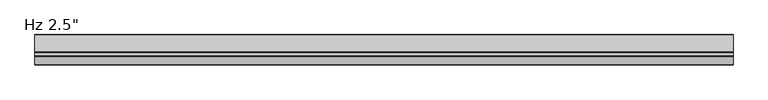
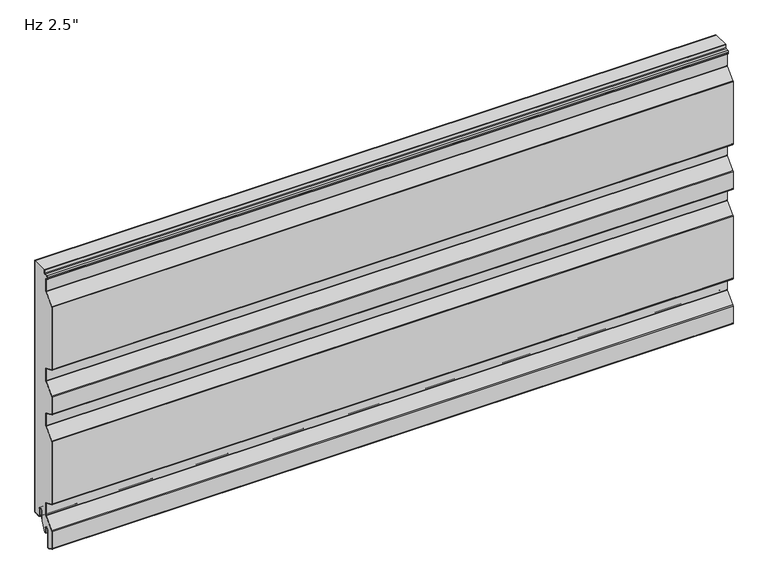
"""IFC4 building model written with IfcOpenShell, lengths in millimetres: plate geometry."""

from ifc_helpers import new_model, si_unit, point, frame, frame_2d, origin, place, context, project, spatial, polyline, circle_curve, trimmed, segment, composite_curve, outline, extrude, source, transform, mapped, element, save


def plate_768e84e4(model_context):
    return source(origin(), model_context, "Body", "SweptSolid", [
        extrude(outline(composite_curve([segment(polyline([(-26.4011912, 19.05), (-26.4011912, -3.1976612), (-36.533822, -23.01875), (-38.6886912, -23.01875), (-38.6886912, -11.90625)]), True, "CONTINUOUS"), segment(trimmed(circle_curve(frame_2d((-43.6574412, -11.90625)), 4.96875), [point((-38.6886912, -11.90625))], [point((-48.6261912, -11.90625))], True, "CARTESIAN"), True, "CONTINUOUS"), segment(polyline([(-48.6261912, -11.90625), (-48.6261912, -48.8194049)]), True, "CONTINUOUS"), segment(trimmed(circle_curve(frame_2d((-50.0074412, -48.8194049)), 1.38125), [point((-48.6261912, -48.8194049))], [point((-50.5666208, -50.0824052))], False, "CARTESIAN"), True, "CONTINUOUS"), segment(polyline([(-50.5666208, -50.0824052), (-61.6779296, -45.1629946)]), True, "CONTINUOUS"), segment(trimmed(circle_curve(frame_2d((-61.11875, -43.8999943)), 1.38125), [point((-61.6779296, -45.1629946))], [point((-62.5, -43.8999943))], False, "CARTESIAN"), True, "CONTINUOUS"), segment(polyline([(-62.5, -43.8999943), (-62.5, -5.0536946)]), True, "CONTINUOUS"), segment(trimmed(circle_curve(frame_2d((-60.4012, -5.0536946)), 2.0988), [point((-62.5, -5.0536946))], [point((-61.9092077, -3.5939431))], False, "CARTESIAN"), True, "CONTINUOUS"), segment(polyline([(-61.9092077, -3.5939431), (-41.7145567, 17.2682996)]), True, "CONTINUOUS"), segment(trimmed(circle_curve(frame_2d((-43.5737, 19.0679503)), 2.5875), [point((-41.7145567, 17.2682996))], [point((-40.9862, 19.0679503))], True, "CARTESIAN"), True, "CONTINUOUS"), segment(polyline([(-40.9862, 19.0679503), (-40.9862, 45.5917981)]), True, "CONTINUOUS"), segment(trimmed(circle_curve(frame_2d((-43.5737, 45.5917981)), 2.5875), [point((-40.9862, 45.5917981))], [point((-42.5261871, 47.9577806))], True, "CARTESIAN"), True, "CONTINUOUS"), segment(polyline([(-42.5261871, 47.9577806), (-61.6779296, 56.4370054)]), True, "CONTINUOUS"), segment(trimmed(circle_curve(frame_2d((-61.11875, 57.7000057)), 1.38125), [point((-61.6779296, 56.4370054))], [point((-62.5, 57.7000057))], False, "CARTESIAN"), True, "CONTINUOUS"), segment(polyline([(-62.5, 57.7000057), (-62.5, 198.4367131)]), True, "CONTINUOUS"), segment(trimmed(circle_curve(frame_2d((-61.11875, 198.4367131)), 1.38125), [point((-62.5, 198.4367131))], [point((-62.1111912, 199.3973962))], False, "CARTESIAN"), True, "CONTINUOUS"), segment(polyline([(-62.1111912, 199.3973962), (-41.7145567, 220.4682996)]), True, "CONTINUOUS"), segment(trimmed(circle_curve(frame_2d((-43.5737, 222.2679503)), 2.5875), [point((-41.7145567, 220.4682996))], [point((-40.9862, 222.2679503))], True, "CARTESIAN"), True, "CONTINUOUS"), segment(polyline([(-40.9862, 222.2679503), (-40.9862, 248.7917981)]), True, "CONTINUOUS"), segment(trimmed(circle_curve(frame_2d((-43.5737, 248.7917981)), 2.5875), [point((-40.9862, 248.7917981))], [point((-42.5261871, 251.1577806))], True, "CARTESIAN"), True, "CONTINUOUS"), segment(polyline([(-42.5261871, 251.1577806), (-61.6779296, 259.6370054)]), True, "CONTINUOUS"), segment(trimmed(circle_curve(frame_2d((-61.11875, 260.9000057)), 1.38125), [point((-61.6779296, 259.6370054))], [point((-62.5, 260.9000057))], False, "CARTESIAN"), True, "CONTINUOUS"), segment(polyline([(-62.5, 260.9000057), (-62.5, 300.0367131)]), True, "CONTINUOUS"), segment(trimmed(circle_curve(frame_2d((-61.11875, 300.0367131)), 1.38125), [point((-62.5, 300.0367131))], [point((-62.1111912, 300.9973962))], False, "CARTESIAN"), True, "CONTINUOUS"), segment(polyline([(-62.1111912, 300.9973962), (-41.7145567, 322.0682996)]), True, "CONTINUOUS"), segment(trimmed(circle_curve(frame_2d((-43.5737, 323.8679503)), 2.5875), [point((-41.7145567, 322.0682996))], [point((-40.9862, 323.8679503))], True, "CARTESIAN"), True, "CONTINUOUS"), segment(polyline([(-40.9862, 323.8679503), (-40.9862, 350.3917981)]), True, "CONTINUOUS"), segment(trimmed(circle_curve(frame_2d((-43.5737, 350.3917981)), 2.5875), [point((-40.9862, 350.3917981))], [point((-42.5261871, 352.7577806))], True, "CARTESIAN"), True, "CONTINUOUS"), segment(polyline([(-42.5261871, 352.7577806), (-61.6779296, 361.2370054)]), True, "CONTINUOUS"), segment(trimmed(circle_curve(frame_2d((-61.11875, 362.5000057)), 1.38125), [point((-61.6779296, 361.2370054))], [point((-62.5, 362.5000057))], False, "CARTESIAN"), True, "CONTINUOUS"), segment(polyline([(-62.5, 362.5000057), (-62.5, 503.2367131)]), True, "CONTINUOUS"), segment(trimmed(circle_curve(frame_2d((-61.11875, 503.2367131)), 1.38125), [point((-62.5, 503.2367131))], [point((-62.1111912, 504.1973962))], False, "CARTESIAN"), True, "CONTINUOUS"), segment(polyline([(-62.1111912, 504.1973962), (-41.7145567, 525.2682996)]), True, "CONTINUOUS"), segment(trimmed(circle_curve(frame_2d((-43.5737, 527.0679503)), 2.5875), [point((-41.7145567, 525.2682996))], [point((-40.9862, 527.0679503))], True, "CARTESIAN"), True, "CONTINUOUS"), segment(polyline([(-40.9862, 527.0679503), (-40.9862, 553.5917981)]), True, "CONTINUOUS"), segment(trimmed(circle_curve(frame_2d((-43.5737, 553.5917981)), 2.5875), [point((-40.9862, 553.5917981))], [point((-42.5261871, 555.9577806))], True, "CARTESIAN"), True, "CONTINUOUS"), segment(polyline([(-42.5261871, 555.9577806), (-44.2166208, 556.7062016)]), True, "CONTINUOUS"), segment(trimmed(circle_curve(frame_2d((-43.6574412, 557.9692019)), 1.38125), [point((-44.2166208, 556.7062016))], [point((-45.0386912, 557.9692019))], False, "CARTESIAN"), True, "CONTINUOUS"), segment(polyline([(-45.0386912, 557.9692019), (-45.0386912, 560.2967085)]), True, "CONTINUOUS"), segment(trimmed(circle_curve(frame_2d((-43.6574412, 560.2967085)), 1.38125), [point((-45.0386912, 560.2967085))], [point((-43.7297302, 561.6760655))], False, "CARTESIAN"), True, "CONTINUOUS"), segment(polyline([(-43.7297302, 561.6760655), (-37.9657719, 561.9781418)]), True, "CONTINUOUS"), segment(trimmed(circle_curve(frame_2d((-38.1011912, 564.5620957)), 2.5875), [point((-37.9657719, 561.9781418))], [point((-35.5136912, 564.5620957))], True, "CARTESIAN"), True, "CONTINUOUS"), segment(polyline([(-35.5136912, 564.5620957), (-35.5136912, 571.2), (-1.0011912, 571.2), (-1.0011912, 3.175)]), True, "CONTINUOUS"), segment(trimmed(circle_curve(frame_2d((-2.3824412, 3.175)), 1.38125), [point((-1.0011912, 3.175))], [point((-2.3824412, 1.79375))], False, "CARTESIAN"), True, "CONTINUOUS"), segment(polyline([(-2.3824412, 1.79375), (-15.0824412, 1.79375)]), True, "CONTINUOUS"), segment(trimmed(circle_curve(frame_2d((-15.0824412, 3.175)), 1.38125), [point((-15.0824412, 1.79375))], [point((-16.4636912, 3.175))], False, "CARTESIAN"), True, "CONTINUOUS"), segment(polyline([(-16.4636912, 3.175), (-16.4636912, 19.05)]), True, "CONTINUOUS"), segment(trimmed(circle_curve(frame_2d((-21.4324412, 19.05)), 4.96875), [point((-16.4636912, 19.05))], [point((-26.4011912, 19.05))], True, "CARTESIAN"), True, "CONTINUOUS")], self_intersect=False)), frame((-730.0, 0.0, 0.0), z_axis=(1.0, 0.0, 0.0), x_axis=(0.0, 1.0, 0.0)), (0.0, 0.0, 1.0), 1460.0),
        extrude(outline(composite_curve([segment(polyline([(-25.4, 0.79375), (-26.4, 0.79375), (-26.4, 19.05)]), True, "CONTINUOUS"), segment(trimmed(circle_curve(frame_2d((-21.43125, 19.05)), 4.96875), [point((-26.4, 19.05))], [point((-16.4625, 19.05))], False, "CARTESIAN"), True, "CONTINUOUS"), segment(polyline([(-16.4625, 19.05), (-16.4625, 3.175)]), True, "CONTINUOUS"), segment(trimmed(circle_curve(frame_2d((-15.08125, 3.175)), 1.38125), [point((-16.4625, 3.175))], [point((-15.08125, 1.79375))], True, "CARTESIAN"), True, "CONTINUOUS"), segment(polyline([(-15.08125, 1.79375), (-2.38125, 1.79375)]), True, "CONTINUOUS"), segment(trimmed(circle_curve(frame_2d((-2.38125, 3.175)), 1.38125), [point((-2.38125, 1.79375))], [point((-1.0, 3.175))], True, "CARTESIAN"), True, "CONTINUOUS"), segment(polyline([(-1.0, 3.175), (-1.0, 571.2), (0.0, 571.2), (0.0, 3.175)]), True, "CONTINUOUS"), segment(trimmed(circle_curve(frame_2d((-2.38125, 3.175)), 2.38125), [point((0.0, 3.175))], [point((-2.38125, 0.79375))], False, "CARTESIAN"), True, "CONTINUOUS"), segment(polyline([(-2.38125, 0.79375), (-15.08125, 0.79375)]), True, "CONTINUOUS"), segment(trimmed(circle_curve(frame_2d((-15.08125, 3.175)), 2.38125), [point((-15.08125, 0.79375))], [point((-17.4625, 3.175))], False, "CARTESIAN"), True, "CONTINUOUS"), segment(polyline([(-17.4625, 3.175), (-17.4625, 19.05)]), True, "CONTINUOUS"), segment(trimmed(circle_curve(frame_2d((-21.43125, 19.05)), 3.96875), [point((-17.4625, 19.05))], [point((-25.4, 19.05))], True, "CARTESIAN"), True, "CONTINUOUS"), segment(polyline([(-25.4, 19.05), (-25.4, 0.79375)]), True, "CONTINUOUS")], self_intersect=False)), frame((-730.0, 0.0, 0.0), z_axis=(1.0, 0.0, 0.0), x_axis=(0.0, 1.0, 0.0)), (0.0, 0.0, 1.0), 1460.0),
        extrude(outline(composite_curve([segment(polyline([(-47.6261912, -11.90625), (-47.6261912, -48.8194049)]), True, "CONTINUOUS"), segment(trimmed(circle_curve(frame_2d((-50.0074412, -48.8194049)), 2.38125), [point((-47.6261912, -48.8194049))], [point((-50.9714567, -50.9967946))], False, "CARTESIAN"), True, "CONTINUOUS"), segment(polyline([(-50.9714567, -50.9967946), (-62.0827655, -46.0773839)]), True, "CONTINUOUS"), segment(trimmed(circle_curve(frame_2d((-61.11875, -43.8999943)), 2.38125), [point((-62.0827655, -46.0773839))], [point((-63.5, -43.8999943))], False, "CARTESIAN"), True, "CONTINUOUS"), segment(polyline([(-63.5, -43.8999943), (-63.5, -5.0536946)]), True, "CONTINUOUS"), segment(trimmed(circle_curve(frame_2d((-60.4012, -5.0536946)), 3.0988), [point((-63.5, -5.0536946))], [point((-62.6277172, -2.8984259))], False, "CARTESIAN"), True, "CONTINUOUS"), segment(polyline([(-62.6277172, -2.8984259), (-42.4330662, 17.9638168)]), True, "CONTINUOUS"), segment(trimmed(circle_curve(frame_2d((-43.5737, 19.0679503)), 1.5875), [point((-42.4330662, 17.9638168))], [point((-41.9862, 19.0679503))], True, "CARTESIAN"), True, "CONTINUOUS"), segment(polyline([(-41.9862, 19.0679503), (-41.9862, 45.5917981)]), True, "CONTINUOUS"), segment(trimmed(circle_curve(frame_2d((-43.5737, 45.5917981)), 1.5875), [point((-41.9862, 45.5917981))], [point((-42.931023, 47.0433912))], True, "CARTESIAN"), True, "CONTINUOUS"), segment(polyline([(-42.931023, 47.0433912), (-62.0827655, 55.5226161)]), True, "CONTINUOUS"), segment(trimmed(circle_curve(frame_2d((-61.11875, 57.7000057)), 2.38125), [point((-62.0827655, 55.5226161))], [point((-63.5, 57.7000057))], False, "CARTESIAN"), True, "CONTINUOUS"), segment(polyline([(-63.5, 57.7000057), (-63.5, 198.4367131)]), True, "CONTINUOUS"), segment(trimmed(circle_curve(frame_2d((-61.11875, 198.4367131)), 2.38125), [point((-63.5, 198.4367131))], [point((-62.8297007, 200.0929134))], False, "CARTESIAN"), True, "CONTINUOUS"), segment(polyline([(-62.8297007, 200.0929134), (-42.4330662, 221.1638168)]), True, "CONTINUOUS"), segment(trimmed(circle_curve(frame_2d((-43.5737, 222.2679503)), 1.5875), [point((-42.4330662, 221.1638168))], [point((-41.9862, 222.2679503))], True, "CARTESIAN"), True, "CONTINUOUS"), segment(polyline([(-41.9862, 222.2679503), (-41.9862, 248.7917981)]), True, "CONTINUOUS"), segment(trimmed(circle_curve(frame_2d((-43.5737, 248.7917981)), 1.5875), [point((-41.9862, 248.7917981))], [point((-42.931023, 250.2433912))], True, "CARTESIAN"), True, "CONTINUOUS"), segment(polyline([(-42.931023, 250.2433912), (-62.0827655, 258.7226161)]), True, "CONTINUOUS"), segment(trimmed(circle_curve(frame_2d((-61.11875, 260.9000057)), 2.38125), [point((-62.0827655, 258.7226161))], [point((-63.5, 260.9000057))], False, "CARTESIAN"), True, "CONTINUOUS"), segment(polyline([(-63.5, 260.9000057), (-63.5, 300.0367131)]), True, "CONTINUOUS"), segment(trimmed(circle_curve(frame_2d((-61.11875, 300.0367131)), 2.38125), [point((-63.5, 300.0367131))], [point((-62.8297007, 301.6929134))], False, "CARTESIAN"), True, "CONTINUOUS"), segment(polyline([(-62.8297007, 301.6929134), (-42.4330662, 322.7638168)]), True, "CONTINUOUS"), segment(trimmed(circle_curve(frame_2d((-43.5737, 323.8679503)), 1.5875), [point((-42.4330662, 322.7638168))], [point((-41.9862, 323.8679503))], True, "CARTESIAN"), True, "CONTINUOUS"), segment(polyline([(-41.9862, 323.8679503), (-41.9862, 350.3917981)]), True, "CONTINUOUS"), segment(trimmed(circle_curve(frame_2d((-43.5737, 350.3917981)), 1.5875), [point((-41.9862, 350.3917981))], [point((-42.931023, 351.8433912))], True, "CARTESIAN"), True, "CONTINUOUS"), segment(polyline([(-42.931023, 351.8433912), (-62.0827655, 360.3226161)]), True, "CONTINUOUS"), segment(trimmed(circle_curve(frame_2d((-61.11875, 362.5000057)), 2.38125), [point((-62.0827655, 360.3226161))], [point((-63.5, 362.5000057))], False, "CARTESIAN"), True, "CONTINUOUS"), segment(polyline([(-63.5, 362.5000057), (-63.5, 503.2367131)]), True, "CONTINUOUS"), segment(trimmed(circle_curve(frame_2d((-61.11875, 503.2367131)), 2.38125), [point((-63.5, 503.2367131))], [point((-62.8297007, 504.8929134))], False, "CARTESIAN"), True, "CONTINUOUS"), segment(polyline([(-62.8297007, 504.8929134), (-42.4330662, 525.9638168)]), True, "CONTINUOUS"), segment(trimmed(circle_curve(frame_2d((-43.5737, 527.0679503)), 1.5875), [point((-42.4330662, 525.9638168))], [point((-41.9862, 527.0679503))], True, "CARTESIAN"), True, "CONTINUOUS"), segment(polyline([(-41.9862, 527.0679503), (-41.9862, 553.5917981)]), True, "CONTINUOUS"), segment(trimmed(circle_curve(frame_2d((-43.5737, 553.5917981)), 1.5875), [point((-41.9862, 553.5917981))], [point((-42.931023, 555.0433912))], True, "CARTESIAN"), True, "CONTINUOUS"), segment(polyline([(-42.931023, 555.0433912), (-44.6214567, 555.7918123)]), True, "CONTINUOUS"), segment(trimmed(circle_curve(frame_2d((-43.6574412, 557.9692019)), 2.38125), [point((-44.6214567, 555.7918123))], [point((-46.0386912, 557.9692019))], False, "CARTESIAN"), True, "CONTINUOUS"), segment(polyline([(-46.0386912, 557.9692019), (-46.0386912, 560.2967085)]), True, "CONTINUOUS"), segment(trimmed(circle_curve(frame_2d((-43.6574412, 560.2967085)), 2.38125), [point((-46.0386912, 560.2967085))], [point((-43.7820662, 562.6746951))], False, "CARTESIAN"), True, "CONTINUOUS"), segment(polyline([(-43.7820662, 562.6746951), (-38.0181078, 562.9767713)]), True, "CONTINUOUS"), segment(trimmed(circle_curve(frame_2d((-38.1011912, 564.5620957)), 1.5875), [point((-38.0181078, 562.9767713))], [point((-36.5136912, 564.5620957))], True, "CARTESIAN"), True, "CONTINUOUS"), segment(polyline([(-36.5136912, 564.5620957), (-36.5136912, 571.2), (-35.5136912, 571.2), (-35.5136912, 564.5620957)]), True, "CONTINUOUS"), segment(trimmed(circle_curve(frame_2d((-38.1011912, 564.5620957)), 2.5875), [point((-35.5136912, 564.5620957))], [point((-37.9657719, 561.9781418))], False, "CARTESIAN"), True, "CONTINUOUS"), segment(polyline([(-37.9657719, 561.9781418), (-43.7297302, 561.6760655)]), True, "CONTINUOUS"), segment(trimmed(circle_curve(frame_2d((-43.6574412, 560.2967085)), 1.38125), [point((-43.7297302, 561.6760655))], [point((-45.0386912, 560.2967085))], True, "CARTESIAN"), True, "CONTINUOUS"), segment(polyline([(-45.0386912, 560.2967085), (-45.0386912, 557.9692019)]), True, "CONTINUOUS"), segment(trimmed(circle_curve(frame_2d((-43.6574412, 557.9692019)), 1.38125), [point((-45.0386912, 557.9692019))], [point((-44.2166208, 556.7062016))], True, "CARTESIAN"), True, "CONTINUOUS"), segment(polyline([(-44.2166208, 556.7062016), (-42.5261871, 555.9577806)]), True, "CONTINUOUS"), segment(trimmed(circle_curve(frame_2d((-43.5737, 553.5917981)), 2.5875), [point((-42.5261871, 555.9577806))], [point((-40.9862, 553.5917981))], False, "CARTESIAN"), True, "CONTINUOUS"), segment(polyline([(-40.9862, 553.5917981), (-40.9862, 527.0679503)]), True, "CONTINUOUS"), segment(trimmed(circle_curve(frame_2d((-43.5737, 527.0679503)), 2.5875), [point((-40.9862, 527.0679503))], [point((-41.7145567, 525.2682996))], False, "CARTESIAN"), True, "CONTINUOUS"), segment(polyline([(-41.7145567, 525.2682996), (-62.1111912, 504.1973962)]), True, "CONTINUOUS"), segment(trimmed(circle_curve(frame_2d((-61.11875, 503.2367131)), 1.38125), [point((-62.1111912, 504.1973962))], [point((-62.5, 503.2367131))], True, "CARTESIAN"), True, "CONTINUOUS"), segment(polyline([(-62.5, 503.2367131), (-62.5, 362.5000057)]), True, "CONTINUOUS"), segment(trimmed(circle_curve(frame_2d((-61.11875, 362.5000057)), 1.38125), [point((-62.5, 362.5000057))], [point((-61.6779296, 361.2370054))], True, "CARTESIAN"), True, "CONTINUOUS"), segment(polyline([(-61.6779296, 361.2370054), (-42.5261871, 352.7577806)]), True, "CONTINUOUS"), segment(trimmed(circle_curve(frame_2d((-43.5737, 350.3917981)), 2.5875), [point((-42.5261871, 352.7577806))], [point((-40.9862, 350.3917981))], False, "CARTESIAN"), True, "CONTINUOUS"), segment(polyline([(-40.9862, 350.3917981), (-40.9862, 323.8679503)]), True, "CONTINUOUS"), segment(trimmed(circle_curve(frame_2d((-43.5737, 323.8679503)), 2.5875), [point((-40.9862, 323.8679503))], [point((-41.7145567, 322.0682996))], False, "CARTESIAN"), True, "CONTINUOUS"), segment(polyline([(-41.7145567, 322.0682996), (-62.1111912, 300.9973962)]), True, "CONTINUOUS"), segment(trimmed(circle_curve(frame_2d((-61.11875, 300.0367131)), 1.38125), [point((-62.1111912, 300.9973962))], [point((-62.5, 300.0367131))], True, "CARTESIAN"), True, "CONTINUOUS"), segment(polyline([(-62.5, 300.0367131), (-62.5, 260.9000057)]), True, "CONTINUOUS"), segment(trimmed(circle_curve(frame_2d((-61.11875, 260.9000057)), 1.38125), [point((-62.5, 260.9000057))], [point((-61.6779296, 259.6370054))], True, "CARTESIAN"), True, "CONTINUOUS"), segment(polyline([(-61.6779296, 259.6370054), (-42.5261871, 251.1577806)]), True, "CONTINUOUS"), segment(trimmed(circle_curve(frame_2d((-43.5737, 248.7917981)), 2.5875), [point((-42.5261871, 251.1577806))], [point((-40.9862, 248.7917981))], False, "CARTESIAN"), True, "CONTINUOUS"), segment(polyline([(-40.9862, 248.7917981), (-40.9862, 222.2679503)]), True, "CONTINUOUS"), segment(trimmed(circle_curve(frame_2d((-43.5737, 222.2679503)), 2.5875), [point((-40.9862, 222.2679503))], [point((-41.7145567, 220.4682996))], False, "CARTESIAN"), True, "CONTINUOUS"), segment(polyline([(-41.7145567, 220.4682996), (-62.1111912, 199.3973962)]), True, "CONTINUOUS"), segment(trimmed(circle_curve(frame_2d((-61.11875, 198.4367131)), 1.38125), [point((-62.1111912, 199.3973962))], [point((-62.5, 198.4367131))], True, "CARTESIAN"), True, "CONTINUOUS"), segment(polyline([(-62.5, 198.4367131), (-62.5, 57.7000057)]), True, "CONTINUOUS"), segment(trimmed(circle_curve(frame_2d((-61.11875, 57.7000057)), 1.38125), [point((-62.5, 57.7000057))], [point((-61.6779296, 56.4370054))], True, "CARTESIAN"), True, "CONTINUOUS"), segment(polyline([(-61.6779296, 56.4370054), (-42.5261871, 47.9577806)]), True, "CONTINUOUS"), segment(trimmed(circle_curve(frame_2d((-43.5737, 45.5917981)), 2.5875), [point((-42.5261871, 47.9577806))], [point((-40.9862, 45.5917981))], False, "CARTESIAN"), True, "CONTINUOUS"), segment(polyline([(-40.9862, 45.5917981), (-40.9862, 19.0679503)]), True, "CONTINUOUS"), segment(trimmed(circle_curve(frame_2d((-43.5737, 19.0679503)), 2.5875), [point((-40.9862, 19.0679503))], [point((-41.7145567, 17.2682996))], False, "CARTESIAN"), True, "CONTINUOUS"), segment(polyline([(-41.7145567, 17.2682996), (-61.9092077, -3.5939431)]), True, "CONTINUOUS"), segment(trimmed(circle_curve(frame_2d((-60.4012, -5.0536946)), 2.0988), [point((-61.9092077, -3.5939431))], [point((-62.5, -5.0536946))], True, "CARTESIAN"), True, "CONTINUOUS"), segment(polyline([(-62.5, -5.0536946), (-62.5, -43.8999943)]), True, "CONTINUOUS"), segment(trimmed(circle_curve(frame_2d((-61.11875, -43.8999943)), 1.38125), [point((-62.5, -43.8999943))], [point((-61.6779296, -45.1629946))], True, "CARTESIAN"), True, "CONTINUOUS"), segment(polyline([(-61.6779296, -45.1629946), (-50.5666208, -50.0824052)]), True, "CONTINUOUS"), segment(trimmed(circle_curve(frame_2d((-50.0074412, -48.8194049)), 1.38125), [point((-50.5666208, -50.0824052))], [point((-48.6261912, -48.8194049))], True, "CARTESIAN"), True, "CONTINUOUS"), segment(polyline([(-48.6261912, -48.8194049), (-48.6261912, -11.90625)]), True, "CONTINUOUS"), segment(trimmed(circle_curve(frame_2d((-43.6574412, -11.90625)), 4.96875), [point((-48.6261912, -11.90625))], [point((-38.6886912, -11.90625))], False, "CARTESIAN"), True, "CONTINUOUS"), segment(polyline([(-38.6886912, -11.90625), (-38.6886912, -23.01875), (-39.6886912, -23.01875), (-39.6886912, -11.90625)]), True, "CONTINUOUS"), segment(trimmed(circle_curve(frame_2d((-43.6574412, -11.90625)), 3.96875), [point((-39.6886912, -11.90625))], [point((-47.6261912, -11.90625))], True, "CARTESIAN"), True, "CONTINUOUS")], self_intersect=False)), frame((-730.0, 0.0, 0.0), z_axis=(1.0, 0.0, 0.0), x_axis=(0.0, 1.0, 0.0)), (0.0, 0.0, 1.0), 1460.0),
    ])


if __name__ == "__main__":
    model = new_model("IFC4")
    model_context = context("Model", 3, world=origin())
    ifc_project = project(units=[si_unit("LENGTHUNIT", "METRE", prefix="MILLI")], contexts=[model_context])
    site = spatial("IfcSite", under=ifc_project)
    building = spatial("IfcBuilding", under=site)
    placement = place(None, origin())
    plate_shape = plate_768e84e4(model_context)
    element("IfcPlate", 1, ObjectType="KIP-24-DWR-R19-CP-Hz-A : Hz 2.5\"", at=placement, inside=building, context=model_context, shape_type="MappedRepresentation", body=[
        mapped(plate_shape, transform((0.0, 0.0, 0.0), x_axis=(1.0, 0.0, 0.0), y_axis=(0.0, 1.0, 0.0), z_axis=(0.0, 0.0, 1.0))),
    ])
    save(model, "model.ifc")
